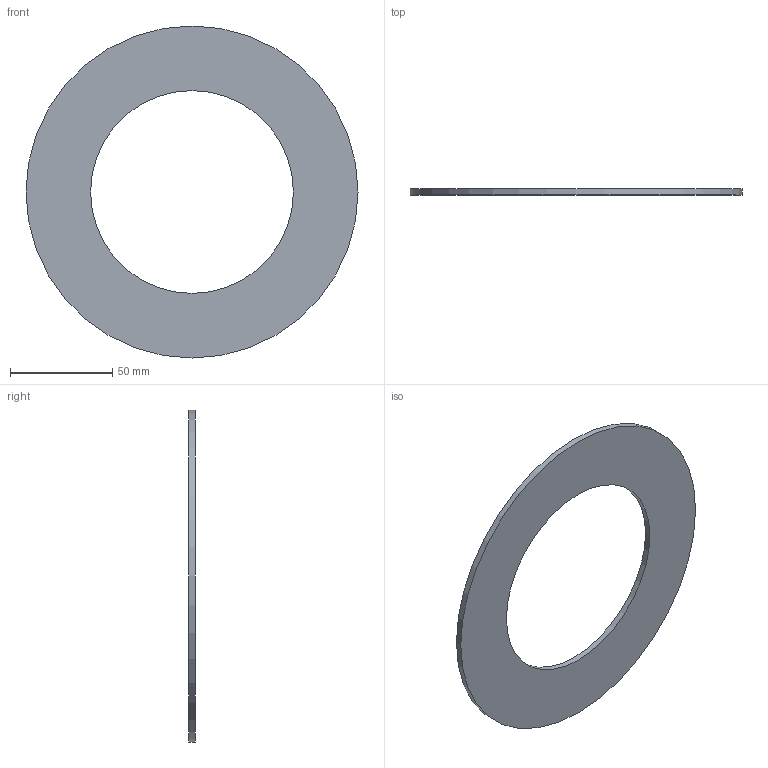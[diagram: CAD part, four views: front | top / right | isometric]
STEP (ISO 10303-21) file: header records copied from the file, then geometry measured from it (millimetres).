
FILE_DESCRIPTION(/* description */ ('Unknown'),/* implementation_level */ '2;1');
FILE_NAME(/* name */ 'GUA.110B',/* time_stamp */ '2021-04-01T11:32:57+02:00',/* author */ ('Unknown'),/* organization */ ('Unknown'),/* preprocessor_version */ 'ST-DEVELOPER v16.7',/* originating_system */ 'Solid Edge',/* authorisation */ 'Unknown');
FILE_SCHEMA (('AUTOMOTIVE_DESIGN {1 0 10303 214 3 1 1}'));
Length unit declared in the file: millimetre
Products named in the file (1): GUA.110B
Bounding box: 162 x 3 x 162 mm (x, y, z)
Volume: 38742.9 mm3; surface area: 28288.5 mm2
Topology: 1 solids, 1 shells, 4 faces, 6 edges, 4 vertices
Faces by surface type: cylinder 2, plane 2
Full cylindrical faces by diameter (mm): 99 x1, 162 x1
Entity records: 118 total; most frequent: DIRECTION 18, CARTESIAN_POINT 13, AXIS2_PLACEMENT_3D 9, ORIENTED_EDGE 8, EDGE_LOOP 8, FACE_BOUND 8, EDGE_CURVE 4, VERTEX_POINT 4
